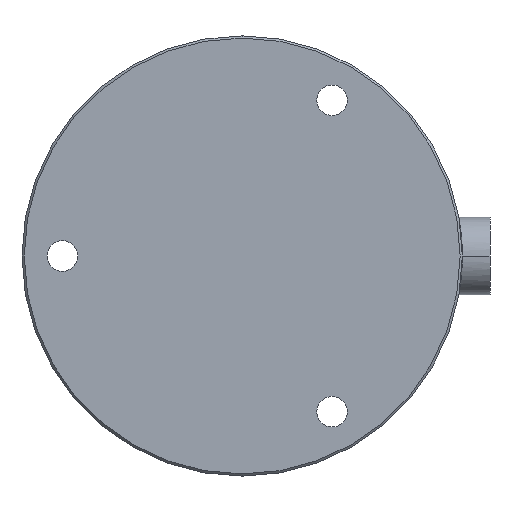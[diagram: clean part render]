
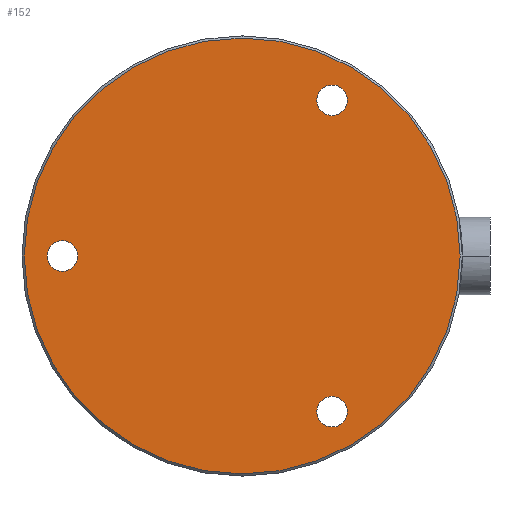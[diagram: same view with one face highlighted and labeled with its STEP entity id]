
A CAD part, front view. The second image highlights one B-rep face of the part: STEP entity #152.
In plain terms, the highlighted planar face has unit normal (0, -1, 0).
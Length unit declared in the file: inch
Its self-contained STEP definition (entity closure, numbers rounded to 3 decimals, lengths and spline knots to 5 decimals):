
#8 = AXIS2_PLACEMENT_3D ( 'NONE', #194, #195, #227 ) ;
#11 = AXIS2_PLACEMENT_3D ( 'NONE', #301, #335, #330 ) ;
#22 = AXIS2_PLACEMENT_3D ( 'NONE', #222, #223, #191 ) ;
#26 = AXIS2_PLACEMENT_3D ( 'NONE', #300, #328, #313 ) ;
#31 = AXIS2_PLACEMENT_3D ( 'NONE', #334, #303, #326 ) ;
#38 = AXIS2_PLACEMENT_3D ( 'NONE', #209, #217, #220 ) ;
#40 = AXIS2_PLACEMENT_3D ( 'NONE', #198, #216, #205 ) ;
#42 = AXIS2_PLACEMENT_3D ( 'NONE', #626, #199, #235 ) ;
#67 = AXIS2_PLACEMENT_3D ( 'NONE', #468, #458, #469 ) ;
#96 = CIRCLE ( 'NONE', #11, 0.069 ) ;
#97 = CIRCLE ( 'NONE', #26, 0.069 ) ;
#102 = CIRCLE ( 'NONE', #31, 0.069 ) ;
#117 = CIRCLE ( 'NONE', #40, 0.069 ) ;
#124 = CIRCLE ( 'NONE', #22, 0.985 ) ;
#144 = CIRCLE ( 'NONE', #8, 0.069 ) ;
#152 = ADVANCED_FACE ( 'NONE', ( #743, #733, #740, #732 ), #467, .F. ) ;
#191 = DIRECTION ( 'NONE',  ( 0., 0., 1. ) ) ;
#194 = CARTESIAN_POINT ( 'NONE',  ( -0.8125, -0.876, 0. ) ) ;
#195 = DIRECTION ( 'NONE',  ( 0., 1., 0. ) ) ;
#198 = CARTESIAN_POINT ( 'NONE',  ( 0.40625, -0.876, -0.70365 ) ) ;
#199 = DIRECTION ( 'NONE',  ( 0., -1., 0. ) ) ;
#205 = DIRECTION ( 'NONE',  ( 0., 0., 1. ) ) ;
#209 = CARTESIAN_POINT ( 'NONE',  ( 0.40625, -0.876, 0.70365 ) ) ;
#216 = DIRECTION ( 'NONE',  ( 0., 1., 0. ) ) ;
#217 = DIRECTION ( 'NONE',  ( 0., 1., 0. ) ) ;
#220 = DIRECTION ( 'NONE',  ( 0., 0., 1. ) ) ;
#222 = CARTESIAN_POINT ( 'NONE',  ( 0., -0.876, 0. ) ) ;
#223 = DIRECTION ( 'NONE',  ( 0., -1., 0. ) ) ;
#227 = DIRECTION ( 'NONE',  ( 0., 0., 1. ) ) ;
#235 = DIRECTION ( 'NONE',  ( 0., 0., 1. ) ) ;
#300 = CARTESIAN_POINT ( 'NONE',  ( -0.8125, -0.876, 0. ) ) ;
#301 = CARTESIAN_POINT ( 'NONE',  ( 0.40625, -0.876, -0.70365 ) ) ;
#303 = DIRECTION ( 'NONE',  ( 0., 1., 0. ) ) ;
#313 = DIRECTION ( 'NONE',  ( 0., 0., 1. ) ) ;
#326 = DIRECTION ( 'NONE',  ( 0., 0., 1. ) ) ;
#328 = DIRECTION ( 'NONE',  ( 0., 1., 0. ) ) ;
#330 = DIRECTION ( 'NONE',  ( 0., 0., 1. ) ) ;
#334 = CARTESIAN_POINT ( 'NONE',  ( 0.40625, -0.876, 0.70365 ) ) ;
#335 = DIRECTION ( 'NONE',  ( 0., 1., 0. ) ) ;
#350 = VERTEX_POINT ( 'NONE', #607 ) ;
#351 = VERTEX_POINT ( 'NONE', #605 ) ;
#354 = VERTEX_POINT ( 'NONE', #562 ) ;
#366 = VERTEX_POINT ( 'NONE', #603 ) ;
#370 = VERTEX_POINT ( 'NONE', #589 ) ;
#386 = VERTEX_POINT ( 'NONE', #586 ) ;
#387 = VERTEX_POINT ( 'NONE', #597 ) ;
#396 = VERTEX_POINT ( 'NONE', #592 ) ;
#458 = DIRECTION ( 'NONE',  ( 0., 1., 0. ) ) ;
#467 = PLANE ( 'NONE',  #67 ) ;
#468 = CARTESIAN_POINT ( 'NONE',  ( -2.19457, -0.876, 0. ) ) ;
#469 = DIRECTION ( 'NONE',  ( 0., 0., 1. ) ) ;
#562 = CARTESIAN_POINT ( 'NONE',  ( 0.40625, -0.876, -0.63465 ) ) ;
#586 = CARTESIAN_POINT ( 'NONE',  ( -0.8125, -0.876, 0.069 ) ) ;
#589 = CARTESIAN_POINT ( 'NONE',  ( 0.40625, -0.876, -0.77265 ) ) ;
#592 = CARTESIAN_POINT ( 'NONE',  ( 0.40625, -0.876, 0.77265 ) ) ;
#597 = CARTESIAN_POINT ( 'NONE',  ( 0.40625, -0.876, 0.63465 ) ) ;
#603 = CARTESIAN_POINT ( 'NONE',  ( -0.8125, -0.876, -0.069 ) ) ;
#605 = CARTESIAN_POINT ( 'NONE',  ( 0., -0.876, 0.985 ) ) ;
#607 = CARTESIAN_POINT ( 'NONE',  ( 0., -0.876, -0.985 ) ) ;
#626 = CARTESIAN_POINT ( 'NONE',  ( 0., -0.876, 0. ) ) ;
#635 = EDGE_CURVE ( 'NONE', #351, #350, #692, .T. ) ;
#637 = EDGE_CURVE ( 'NONE', #396, #387, #693, .T. ) ;
#641 = EDGE_CURVE ( 'NONE', #354, #370, #117, .T. ) ;
#642 = EDGE_CURVE ( 'NONE', #386, #366, #144, .T. ) ;
#650 = EDGE_CURVE ( 'NONE', #350, #351, #124, .T. ) ;
#665 = EDGE_CURVE ( 'NONE', #366, #386, #97, .T. ) ;
#667 = EDGE_CURVE ( 'NONE', #370, #354, #96, .T. ) ;
#669 = EDGE_CURVE ( 'NONE', #387, #396, #102, .T. ) ;
#692 = CIRCLE ( 'NONE', #42, 0.985 ) ;
#693 = CIRCLE ( 'NONE', #38, 0.069 ) ;
#732 = FACE_BOUND ( 'NONE', #822, .T. ) ;
#733 = FACE_BOUND ( 'NONE', #808, .T. ) ;
#740 = FACE_BOUND ( 'NONE', #798, .T. ) ;
#743 = FACE_OUTER_BOUND ( 'NONE', #801, .T. ) ;
#798 = EDGE_LOOP ( 'NONE', ( #878, #861 ) ) ;
#801 = EDGE_LOOP ( 'NONE', ( #918, #887 ) ) ;
#808 = EDGE_LOOP ( 'NONE', ( #868, #869 ) ) ;
#822 = EDGE_LOOP ( 'NONE', ( #862, #871 ) ) ;
#861 = ORIENTED_EDGE ( 'NONE', *, *, #665, .T. ) ;
#862 = ORIENTED_EDGE ( 'NONE', *, *, #637, .T. ) ;
#868 = ORIENTED_EDGE ( 'NONE', *, *, #641, .T. ) ;
#869 = ORIENTED_EDGE ( 'NONE', *, *, #667, .T. ) ;
#871 = ORIENTED_EDGE ( 'NONE', *, *, #669, .T. ) ;
#878 = ORIENTED_EDGE ( 'NONE', *, *, #642, .T. ) ;
#887 = ORIENTED_EDGE ( 'NONE', *, *, #650, .T. ) ;
#918 = ORIENTED_EDGE ( 'NONE', *, *, #635, .T. ) ;
